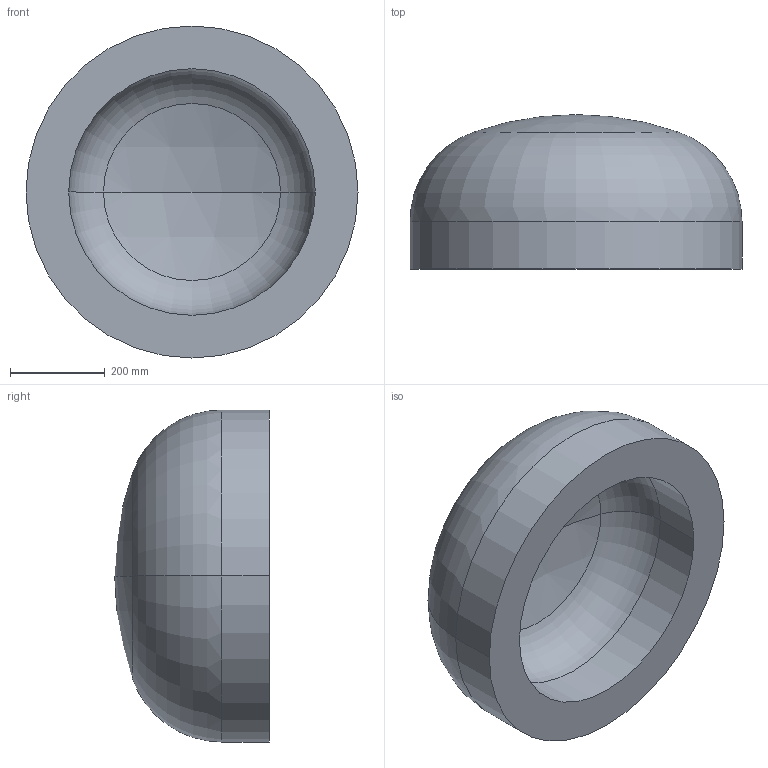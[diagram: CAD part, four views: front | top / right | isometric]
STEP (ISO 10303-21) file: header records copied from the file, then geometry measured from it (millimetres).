
FILE_DESCRIPTION (( 'STEP AP203' ), '1' );
FILE_NAME ('DIN 28013 Korbbogenform_-_Boden DIN 28013 - 700 x 100 - I - s=90.step', '2016-07-01T08:11:22', ( '' ), ( '' ), 'SwSTEP 2.0', 'SolidWorks 2013', '' );
FILE_SCHEMA (( 'CONFIG_CONTROL_DESIGN' ));
Length unit declared in the file: millimetre
Products named in the file (1): DIN 28013 Korbbogenform_-_Boden DIN 28013 - 700 x 100 - I - s=90
Bounding box: 700 x 325.74 x 700 mm (x, y, z)
Volume: 58459506.2 mm3; surface area: 1488538.1 mm2
Topology: 1 solids, 1 shells, 13 faces, 24 edges, 14 vertices
Faces by surface type: torus 4, cylinder 4, sphere 4, plane 1
Entity records: 407 total; most frequent: DIRECTION 72, CARTESIAN_POINT 52, ORIENTED_EDGE 48, AXIS2_PLACEMENT_3D 34, EDGE_CURVE 24, CIRCLE 20, VERTEX_POINT 14, EDGE_LOOP 14
